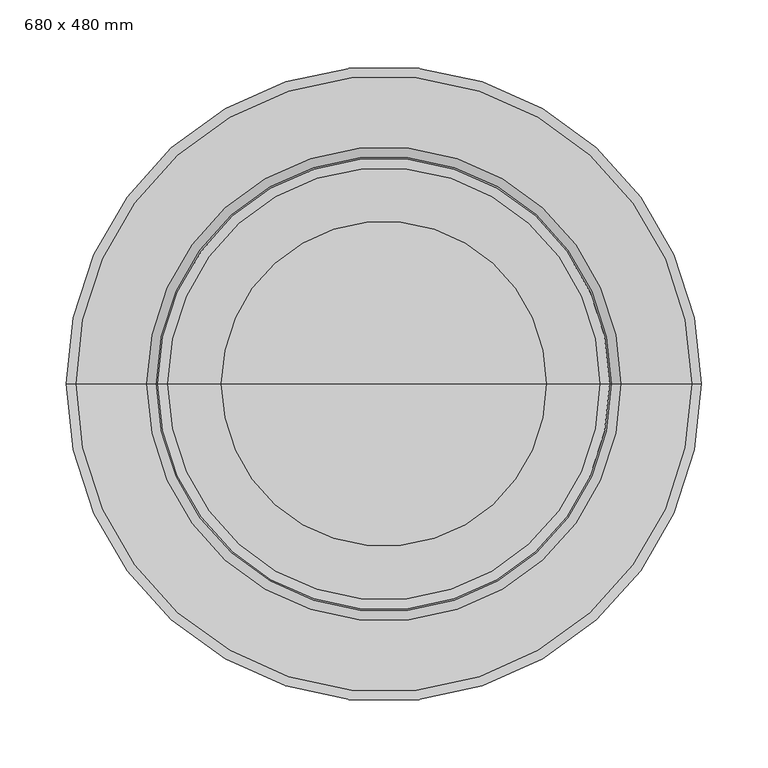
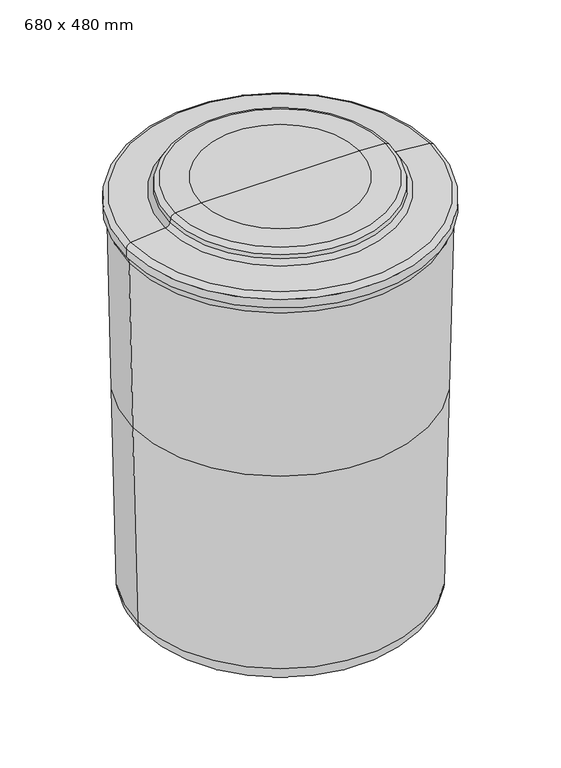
"""IFC4 building model written with IfcOpenShell, lengths in millimetres: proxy geometry, BWT_Bac à sel type 1 : 680 x 480 mm."""

from ifc_helpers import new_model, si_unit, point, frame, origin, place, context, project, spatial, polyline, circle_curve, ellipse_curve, trimmed, source, transform, mapped, element, save
from ifc_brep_helpers import plane_surface, cylinder_surface, revolved_surface, advanced_brep


def proxy_680_x_480_mm_584e9f77(model_context):
    return source(origin(), model_context, "Body", "AdvancedBrep", [
        advanced_brep(
        [(228.4607428, 0.0, 348.7394346), (-228.4607428, 0.0, 348.7394346), (-234.0, 0.0, 620.0), (234.0, 0.0, 620.0), (221.4173957, 0.0, 28.3474108), (-221.4173957, 0.0, 28.3474108), (0.0, 0.0, 0.0), (-193.5, 0.0, 0.0), (193.5, 0.0, 0.0), (122.2953745, 0.0, 680.0), (-122.2953745, 0.0, 680.0), (0.0, 0.0, 680.0), (162.6452336, 0.0, 677.7126502), (-162.6452336, 0.0, 677.7126502), (170.105008, 0.0, 671.1127994), (-170.105008, 0.0, 671.1127994), (171.203396, 0.0, 664.8835314), (-171.203396, 0.0, 664.8835314), (178.3846121, 0.0, 658.3031593), (-178.3846121, 0.0, 658.3031593), (231.6972459, 0.0, 653.6389082), (-231.6972459, 0.0, 653.6389082), (239.0, 0.0, 645.6693506), (-239.0, 0.0, 645.6693506), (239.0, 0.0, 632.0), (-239.0, 0.0, 632.0), (236.5506787, 0.0, 632.0), (-236.5506787, 0.0, 632.0)],
        [
            (0, 1, circle_curve(frame((0.0, 0.0, 348.7394346), z_axis=(0.0, 0.0, 1.0), x_axis=(-1.0, 0.0, 0.0)), 228.4607428)),
            (1, 2),
            (2, 3, circle_curve(frame((0.0, 0.0, 620.0), z_axis=(0.0, 0.0, -1.0), x_axis=(-1.0, 0.0, 0.0)), 234.0)),
            (3, 0),
            (1, 0, circle_curve(frame((0.0, 0.0, 348.7394346), z_axis=(0.0, 0.0, 1.0), x_axis=(-1.0, 0.0, 0.0)), 228.4607428)),
            (3, 2, circle_curve(frame((0.0, 0.0, 620.0), z_axis=(0.0, 0.0, -1.0), x_axis=(-1.0, 0.0, 0.0)), 234.0)),
            (4, 5, circle_curve(frame((0.0, 0.0, 28.3474108), z_axis=(0.0, 0.0, 1.0), x_axis=(-1.0, 0.0, 0.0)), 221.4173957)),
            (5, 1),
            (0, 4),
            (5, 4, circle_curve(frame((0.0, 0.0, 28.3474108), z_axis=(0.0, 0.0, 1.0), x_axis=(-1.0, 0.0, 0.0)), 221.4173957)),
            (6, 7),
            (7, 8, circle_curve(frame((0.0, 0.0, 0.0), z_axis=(0.0, 0.0, -1.0), x_axis=(-1.0, 0.0, 0.0)), 193.5)),
            (8, 6),
            (8, 7, circle_curve(frame((0.0, 0.0, 0.0), z_axis=(0.0, 0.0, -1.0), x_axis=(-1.0, 0.0, 0.0)), 193.5)),
            (9, 10, circle_curve(frame((0.0, 0.0, 680.0), z_axis=(0.0, 0.0, 1.0), x_axis=(-1.0, 0.0, 0.0)), 122.2953745)),
            (10, 11),
            (11, 9),
            (10, 9, circle_curve(frame((0.0, 0.0, 680.0), z_axis=(0.0, 0.0, 1.0), x_axis=(-1.0, 0.0, 0.0)), 122.2953745)),
            (12, 13, circle_curve(frame((0.0, 0.0, 677.7126502), z_axis=(0.0, 0.0, 1.0), x_axis=(-1.0, 0.0, 0.0)), 162.6452336)),
            (13, 10),
            (9, 12),
            (13, 12, circle_curve(frame((0.0, 0.0, 677.7126502), z_axis=(0.0, 0.0, 1.0), x_axis=(-1.0, 0.0, 0.0)), 162.6452336)),
            (14, 15, circle_curve(frame((0.0, 0.0, 671.1127994), z_axis=(0.0, 0.0, 1.0), x_axis=(-1.0, 0.0, 0.0)), 170.105008)),
            (15, 13, circle_curve(frame((-162.226546, 0.0, 669.723614), z_axis=(0.0, 1.0, 0.0), x_axis=(1.0, 0.0, 0.0)), 8.0)),
            (12, 14, circle_curve(frame((162.226546, 0.0, 669.723614), z_axis=(0.0, 1.0, 0.0), x_axis=(-1.0, 0.0, 0.0)), 8.0)),
            (15, 14, circle_curve(frame((0.0, 0.0, 671.1127994), z_axis=(0.0, 0.0, 1.0), x_axis=(-1.0, 0.0, 0.0)), 170.105008)),
            (16, 17, circle_curve(frame((0.0, 0.0, 664.8835314), z_axis=(0.0, 0.0, 1.0), x_axis=(-1.0, 0.0, 0.0)), 171.203396)),
            (17, 15),
            (14, 16),
            (17, 16, circle_curve(frame((0.0, 0.0, 664.8835314), z_axis=(0.0, 0.0, 1.0), x_axis=(-1.0, 0.0, 0.0)), 171.203396)),
            (18, 19, circle_curve(frame((0.0, 0.0, 658.3031593), z_axis=(0.0, 0.0, 1.0), x_axis=(-1.0, 0.0, 0.0)), 178.3846121)),
            (19, 17, circle_curve(frame((-179.081858, 0.0, 666.2727169), z_axis=(0.0, -1.0, 0.0), x_axis=(1.0, 0.0, 0.0)), 8.0)),
            (16, 18, circle_curve(frame((179.081858, 0.0, 666.2727169), z_axis=(0.0, -1.0, 0.0), x_axis=(-1.0, 0.0, 0.0)), 8.0)),
            (19, 18, circle_curve(frame((0.0, 0.0, 658.3031593), z_axis=(0.0, 0.0, 1.0), x_axis=(-1.0, 0.0, 0.0)), 178.3846121)),
            (20, 21, circle_curve(frame((0.0, 0.0, 653.6389082), z_axis=(0.0, 0.0, 1.0), x_axis=(-1.0, 0.0, 0.0)), 231.6972459)),
            (21, 19),
            (18, 20),
            (21, 20, circle_curve(frame((0.0, 0.0, 653.6389082), z_axis=(0.0, 0.0, 1.0), x_axis=(-1.0, 0.0, 0.0)), 231.6972459)),
            (22, 23, circle_curve(frame((0.0, 0.0, 645.6693506), z_axis=(0.0, 0.0, 1.0), x_axis=(-1.0, 0.0, 0.0)), 239.0)),
            (23, 21, circle_curve(frame((-231.0, 0.0, 645.6693506), z_axis=(0.0, 1.0, 0.0), x_axis=(1.0, 0.0, 0.0)), 8.0)),
            (20, 22, circle_curve(frame((231.0, 0.0, 645.6693506), z_axis=(0.0, 1.0, 0.0), x_axis=(-1.0, 0.0, 0.0)), 8.0)),
            (23, 22, circle_curve(frame((0.0, 0.0, 645.6693506), z_axis=(0.0, 0.0, 1.0), x_axis=(-1.0, 0.0, 0.0)), 239.0)),
            (24, 25, circle_curve(frame((0.0, 0.0, 632.0), z_axis=(0.0, 0.0, 1.0), x_axis=(-1.0, 0.0, 0.0)), 239.0)),
            (25, 23),
            (22, 24),
            (25, 24, circle_curve(frame((0.0, 0.0, 632.0), z_axis=(0.0, 0.0, 1.0), x_axis=(-1.0, 0.0, 0.0)), 239.0)),
            (26, 27, circle_curve(frame((0.0, 0.0, 632.0), z_axis=(0.0, 0.0, 1.0), x_axis=(-1.0, 0.0, 0.0)), 236.5506787)),
            (27, 25),
            (24, 26),
            (27, 26, circle_curve(frame((0.0, 0.0, 632.0), z_axis=(0.0, 0.0, 1.0), x_axis=(-1.0, 0.0, 0.0)), 236.5506787)),
            (2, 27),
            (26, 3),
            (7, 5, circle_curve(frame((-192.424297, 0.0, 28.9800425), z_axis=(0.0, 1.0, 0.0), x_axis=(1.0, 0.0, 0.0)), 29.0)),
            (4, 8, circle_curve(frame((192.424297, 0.0, 28.9800425), z_axis=(0.0, 1.0, 0.0), x_axis=(-1.0, 0.0, 0.0)), 29.0)),
        ],
        [
            revolved_surface(polyline([(-234.0, 0.0, 620.0), (-228.4607428, 0.0, 348.7394346)]), (0.0, 0.0, 2104.3150031), (0.0, 0.0, -1.0)),
            revolved_surface(polyline([(-228.4607428, 0.0, 348.7394346), (-221.4173957, 0.0, 28.3474108)]), (0.0, 0.0, 2104.3150031), (0.0, 0.0, -1.0)),
            plane_surface(frame((0.0, 0.0, 0.0), z_axis=(0.0, 0.0, -1.0), x_axis=(-1.0, 0.0, 0.0))),
            plane_surface(frame((0.0, 0.0, 680.0), z_axis=(0.0, 0.0, 1.0), x_axis=(-1.0, 0.0, 0.0))),
            revolved_surface(polyline([(-122.2953745, 0.0, 680.0), (-162.6452336, 0.0, 677.7126502)]), (0.0, 0.0, 2104.3150031), (0.0, 0.0, -1.0)),
            revolved_surface(trimmed(ellipse_curve(frame((-162.226546, 0.0, 669.723614), z_axis=(0.0, -1.0, 0.0), x_axis=(1.0, 0.0, 0.0)), 8.0, 8.0), [point((-162.6452336, 0.0, 677.7126502))], [point((-170.105008, 0.0, 671.1127994))], True, "CARTESIAN"), (0.0, 0.0, 2104.3150031), (0.0, 0.0, -1.0)),
            revolved_surface(polyline([(-170.105008, 0.0, 671.1127994), (-171.203396, 0.0, 664.8835314)]), (0.0, 0.0, 2104.3150031), (0.0, 0.0, -1.0)),
            revolved_surface(trimmed(ellipse_curve(frame((-179.081858, 0.0, 666.2727169), z_axis=(0.0, 1.0, 0.0), x_axis=(1.0, 0.0, 0.0)), 8.0, 8.0), [point((-171.203396, 0.0, 664.8835314))], [point((-178.3846121, 0.0, 658.3031593))], True, "CARTESIAN"), (0.0, 0.0, 2104.3150031), (0.0, 0.0, -1.0)),
            revolved_surface(polyline([(-178.3846121, 0.0, 658.3031593), (-231.6972459, 0.0, 653.6389082)]), (0.0, 0.0, 2104.3150031), (0.0, 0.0, -1.0)),
            revolved_surface(trimmed(ellipse_curve(frame((-231.0, 0.0, 645.6693506), z_axis=(0.0, -1.0, 0.0), x_axis=(1.0, 0.0, 0.0)), 8.0, 8.0), [point((-231.6972459, 0.0, 653.6389082))], [point((-239.0, 0.0, 645.6693506))], True, "CARTESIAN"), (0.0, 0.0, 2104.3150031), (0.0, 0.0, -1.0)),
            cylinder_surface(frame((0.0, 0.0, 2104.3150031), z_axis=(0.0, 0.0, -1.0), x_axis=(-1.0, 0.0, 0.0)), 239.0),
            plane_surface(frame((0.0, 0.0, 632.0), z_axis=(0.0, 0.0, -1.0), x_axis=(-1.0, 0.0, 0.0))),
            revolved_surface(polyline([(-236.5506787, 0.0, 632.0), (-234.0, 0.0, 620.0)]), (0.0, 0.0, 2104.3150031), (0.0, 0.0, -1.0)),
            revolved_surface(trimmed(ellipse_curve(frame((-192.424297, 0.0, 28.9800425), z_axis=(0.0, -1.0, 0.0), x_axis=(1.0, 0.0, 0.0)), 29.0, 29.0), [point((-221.4173957, 0.0, 28.3474108))], [point((-193.5, 0.0, 0.0))], True, "CARTESIAN"), (0.0, 0.0, 2104.3150031), (0.0, 0.0, -1.0)),
        ],
        [
            (0, [[1, 2, 3, 4]]),
            (0, [[5, -4, 6, -2]]),
            (1, [[7, 8, -1, 9]]),
            (1, [[10, -9, -5, -8]]),
            (2, [[11, 12, 13]]),
            (2, [[-13, 14, -11]]),
            (3, [[15, 16, 17]]),
            (3, [[18, -17, -16]]),
            (4, [[19, 20, -15, 21]]),
            (4, [[22, -21, -18, -20]]),
            (5, [[23, 24, -19, 25]]),
            (5, [[26, -25, -22, -24]]),
            (6, [[27, 28, -23, 29]]),
            (6, [[30, -29, -26, -28]]),
            (7, [[31, 32, -27, 33]]),
            (7, [[34, -33, -30, -32]]),
            (8, [[35, 36, -31, 37]]),
            (8, [[38, -37, -34, -36]]),
            (9, [[39, 40, -35, 41]]),
            (9, [[42, -41, -38, -40]]),
            (10, [[43, 44, -39, 45]]),
            (10, [[46, -45, -42, -44]]),
            (11, [[47, 48, -43, 49]]),
            (11, [[50, -49, -46, -48]]),
            (12, [[-3, 51, -47, 52]]),
            (12, [[-6, -52, -50, -51]]),
            (13, [[-12, 53, -7, 54]]),
            (13, [[-14, -54, -10, -53]]),
        ],
    ),
    ])


if __name__ == "__main__":
    model = new_model("IFC4")
    model_context = context("Model", 3, world=origin())
    ifc_project = project(units=[si_unit("LENGTHUNIT", "METRE", prefix="MILLI")], contexts=[model_context])
    site = spatial("IfcSite", under=ifc_project)
    building = spatial("IfcBuilding", under=site)
    placement = place(None, origin())
    proxy_680_x_480_mm_shape = proxy_680_x_480_mm_584e9f77(model_context)
    element("IfcBuildingElementProxy", 1, Name="BWT_Bac à sel type 1 : 680 x 480 mm", ObjectType="BWT_Bac à sel type 1 : 680 x 480 mm", at=placement, inside=building, context=model_context, shape_type="MappedRepresentation", body=[
        mapped(proxy_680_x_480_mm_shape, transform((0.0, 0.0, 0.0), x_axis=(1.0, 0.0, 0.0), y_axis=(0.0, 1.0, 0.0), z_axis=(0.0, 0.0, 1.0))),
    ])
    save(model, "model.ifc")
